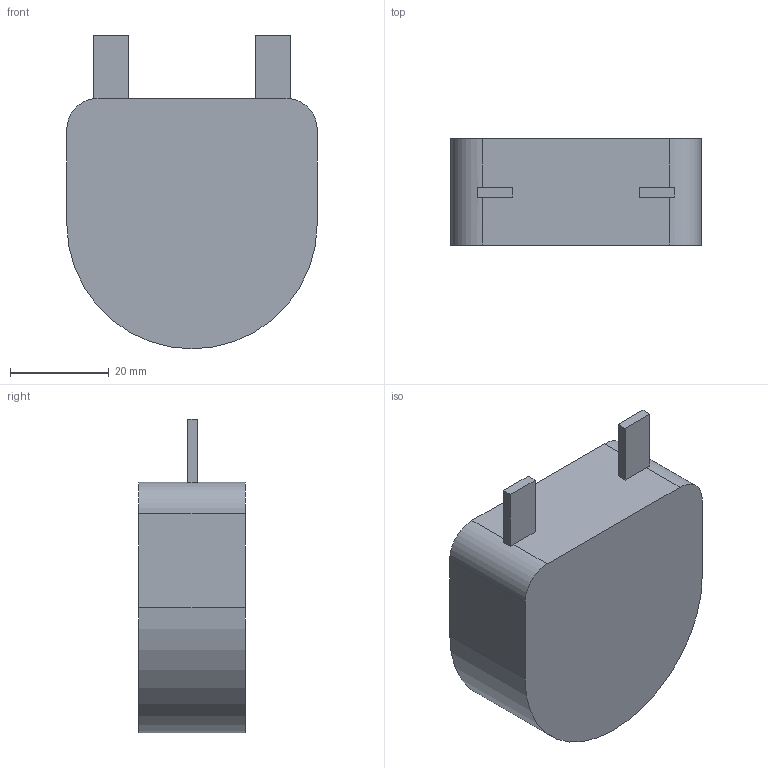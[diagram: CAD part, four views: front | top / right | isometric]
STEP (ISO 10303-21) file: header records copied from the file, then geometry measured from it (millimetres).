
FILE_DESCRIPTION (( 'STEP AP214' ), '1' );
FILE_NAME ('IHXL2000VZEB100M3A.STEP', '2025-08-07T21:09:45', ( '' ), ( '' ), 'SwSTEP 2.0', 'SolidWorks 2024', '' );
FILE_SCHEMA (( 'AUTOMOTIVE_DESIGN' ));
Length unit declared in the file: inch
Products named in the file (1): IHXL2000VZEB100M3A
Bounding box: 50.8 x 21.59 x 63.63 mm (x, y, z)
Volume: 49730.2 mm3; surface area: 8839.7 mm2
Topology: 1 solids, 1 shells, 19 faces, 51 edges, 34 vertices
Faces by surface type: plane 15, cylinder 4
Entity records: 624 total; most frequent: CARTESIAN_POINT 105, DIRECTION 103, ORIENTED_EDGE 102, EDGE_CURVE 51, LINE 39, VECTOR 39, VERTEX_POINT 34, AXIS2_PLACEMENT_3D 32
